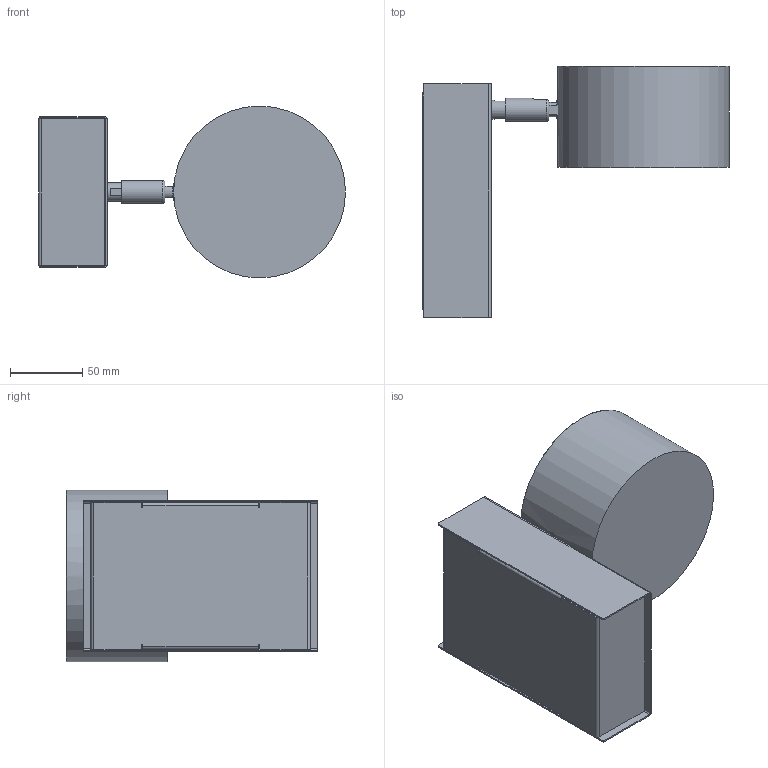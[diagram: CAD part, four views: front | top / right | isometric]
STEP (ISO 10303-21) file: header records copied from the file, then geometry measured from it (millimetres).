
FILE_DESCRIPTION(/* description */ (''),/* implementation_level */ '2;1');
FILE_NAME(/* name */ 'SPOT IP65.stp',/* time_stamp */ '2023-02-16T17:21:31+01:00',/* author */ ('n.bisotti'),/* organization */ (''),/* preprocessor_version */ 'ST-DEVELOPER v19.2',/* originating_system */ 'Autodesk Inventor 2023',/* authorisation */ '');
FILE_SCHEMA (('AUTOMOTIVE_DESIGN { 1 0 10303 214 3 1 1 }'));
Length unit declared in the file: millimetre
Products named in the file (1): SPOT IP65
Bounding box: 212.53 x 174 x 119 mm (x, y, z)
Volume: 347615.7 mm3; surface area: 250252.6 mm2
Topology: 9 solids, 9 shells, 184 faces, 443 edges, 281 vertices
Faces by surface type: plane 109, cylinder 68, cone 4, sphere 2, torus 1
Full cylindrical faces by diameter (mm): 2.459 x4, 3.25 x2, 6 x2, 10 x1, 13 x1, 13.5 x1, 16 x1, 17 x4, 78 x1, 87.5 x1, 101 x1, 110 x1, 112 x2, 114.5 x1, 119 x1
Entity records: 5763 total; most frequent: CARTESIAN_POINT 1036, DIRECTION 950, ORIENTED_EDGE 884, EDGE_CURVE 442, AXIS2_PLACEMENT_3D 334, LINE 282, VECTOR 282, VERTEX_POINT 281
